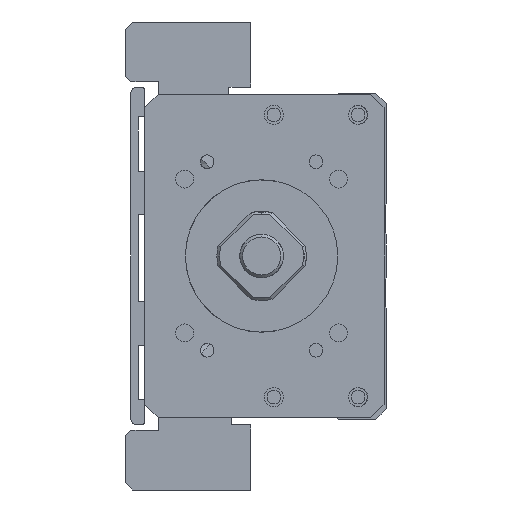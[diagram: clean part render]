
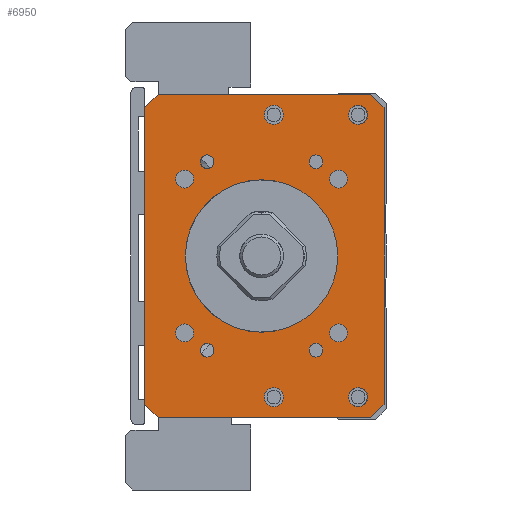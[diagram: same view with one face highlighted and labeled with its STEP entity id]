
A CAD part, left-side view. The second image highlights one B-rep face of the part: STEP entity #6950.
In plain terms, the highlighted planar face has unit normal (-1, 0, 0).
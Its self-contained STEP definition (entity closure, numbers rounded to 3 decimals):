
#188=LINE('',#20181,#1135);
#190=LINE('',#20205,#1137);
#191=LINE('',#20207,#1138);
#192=LINE('',#20209,#1139);
#193=LINE('',#20211,#1140);
#194=LINE('',#20213,#1141);
#195=LINE('',#20215,#1142);
#196=LINE('',#20217,#1143);
#1135=VECTOR('',#16807,1.);
#1137=VECTOR('',#16831,1.);
#1138=VECTOR('',#16832,1.);
#1139=VECTOR('',#16833,1.);
#1140=VECTOR('',#16834,1.);
#1141=VECTOR('',#16835,1.);
#1142=VECTOR('',#16836,1.);
#1143=VECTOR('',#16837,1.);
#6464=FACE_BOUND('',#8554,.T.);
#6465=FACE_BOUND('',#8555,.T.);
#6466=FACE_BOUND('',#8556,.T.);
#6467=FACE_BOUND('',#8557,.T.);
#6468=FACE_BOUND('',#8558,.T.);
#6469=FACE_BOUND('',#8559,.T.);
#6470=FACE_BOUND('',#8560,.T.);
#6471=FACE_BOUND('',#8561,.T.);
#6472=FACE_BOUND('',#8562,.T.);
#6473=FACE_BOUND('',#8563,.T.);
#6474=FACE_BOUND('',#8564,.T.);
#6475=FACE_BOUND('',#8565,.T.);
#6476=FACE_BOUND('',#8566,.T.);
#6477=FACE_BOUND('',#8567,.T.);
#6950=ADVANCED_FACE('',(#6464,#6465,#6466,#6467,#6468,#6469,#6470,#6471,
#6472,#6473,#6474,#6475,#6476,#6477),#7631,.F.);
#7631=PLANE('',#15675);
#8554=EDGE_LOOP('',(#9550));
#8555=EDGE_LOOP('',(#9551));
#8556=EDGE_LOOP('',(#9552));
#8557=EDGE_LOOP('',(#9553));
#8558=EDGE_LOOP('',(#9554));
#8559=EDGE_LOOP('',(#9555));
#8560=EDGE_LOOP('',(#9556));
#8561=EDGE_LOOP('',(#9557));
#8562=EDGE_LOOP('',(#9558));
#8563=EDGE_LOOP('',(#9559,#9560,#9561,#9562,#9563,#9564,#9565,#9566));
#8564=EDGE_LOOP('',(#9567));
#8565=EDGE_LOOP('',(#9568));
#8566=EDGE_LOOP('',(#9569));
#8567=EDGE_LOOP('',(#9570));
#9550=ORIENTED_EDGE('',*,*,#13720,.F.);
#9551=ORIENTED_EDGE('',*,*,#13721,.F.);
#9552=ORIENTED_EDGE('',*,*,#13722,.F.);
#9553=ORIENTED_EDGE('',*,*,#13723,.F.);
#9554=ORIENTED_EDGE('',*,*,#13724,.F.);
#9555=ORIENTED_EDGE('',*,*,#13725,.T.);
#9556=ORIENTED_EDGE('',*,*,#13726,.F.);
#9557=ORIENTED_EDGE('',*,*,#13727,.F.);
#9558=ORIENTED_EDGE('',*,*,#13728,.F.);
#9559=ORIENTED_EDGE('',*,*,#13717,.T.);
#9560=ORIENTED_EDGE('',*,*,#13729,.T.);
#9561=ORIENTED_EDGE('',*,*,#13730,.F.);
#9562=ORIENTED_EDGE('',*,*,#13731,.T.);
#9563=ORIENTED_EDGE('',*,*,#13732,.F.);
#9564=ORIENTED_EDGE('',*,*,#13733,.T.);
#9565=ORIENTED_EDGE('',*,*,#13734,.T.);
#9566=ORIENTED_EDGE('',*,*,#13735,.T.);
#9567=ORIENTED_EDGE('',*,*,#13736,.F.);
#9568=ORIENTED_EDGE('',*,*,#13737,.F.);
#9569=ORIENTED_EDGE('',*,*,#13738,.F.);
#9570=ORIENTED_EDGE('',*,*,#13697,.F.);
#12603=VERTEX_POINT('',#20104);
#12623=VERTEX_POINT('',#20180);
#12624=VERTEX_POINT('',#20182);
#12626=VERTEX_POINT('',#20188);
#12627=VERTEX_POINT('',#20190);
#12628=VERTEX_POINT('',#20192);
#12629=VERTEX_POINT('',#20194);
#12630=VERTEX_POINT('',#20196);
#12631=VERTEX_POINT('',#20198);
#12632=VERTEX_POINT('',#20200);
#12633=VERTEX_POINT('',#20202);
#12634=VERTEX_POINT('',#20204);
#12635=VERTEX_POINT('',#20206);
#12636=VERTEX_POINT('',#20208);
#12637=VERTEX_POINT('',#20210);
#12638=VERTEX_POINT('',#20212);
#12639=VERTEX_POINT('',#20214);
#12640=VERTEX_POINT('',#20216);
#12641=VERTEX_POINT('',#20219);
#12642=VERTEX_POINT('',#20221);
#12643=VERTEX_POINT('',#20223);
#13697=EDGE_CURVE('',#12603,#12603,#15241,.T.);
#13717=EDGE_CURVE('',#12624,#12623,#188,.T.);
#13720=EDGE_CURVE('',#12626,#12626,#15250,.T.);
#13721=EDGE_CURVE('',#12627,#12627,#15251,.T.);
#13722=EDGE_CURVE('',#12628,#12628,#15252,.T.);
#13723=EDGE_CURVE('',#12629,#12629,#15253,.T.);
#13724=EDGE_CURVE('',#12630,#12630,#15254,.T.);
#13725=EDGE_CURVE('',#12631,#12631,#15255,.T.);
#13726=EDGE_CURVE('',#12632,#12632,#15256,.T.);
#13727=EDGE_CURVE('',#12633,#12633,#15257,.T.);
#13728=EDGE_CURVE('',#12634,#12634,#15258,.T.);
#13729=EDGE_CURVE('',#12623,#12635,#190,.T.);
#13730=EDGE_CURVE('',#12636,#12635,#191,.T.);
#13731=EDGE_CURVE('',#12636,#12637,#192,.T.);
#13732=EDGE_CURVE('',#12638,#12637,#193,.T.);
#13733=EDGE_CURVE('',#12638,#12639,#194,.T.);
#13734=EDGE_CURVE('',#12639,#12640,#195,.T.);
#13735=EDGE_CURVE('',#12640,#12624,#196,.T.);
#13736=EDGE_CURVE('',#12641,#12641,#15259,.T.);
#13737=EDGE_CURVE('',#12642,#12642,#15260,.T.);
#13738=EDGE_CURVE('',#12643,#12643,#15261,.T.);
#15241=CIRCLE('',#15652,14.);
#15250=CIRCLE('',#15663,1.65);
#15251=CIRCLE('',#15664,1.65);
#15252=CIRCLE('',#15665,1.65);
#15253=CIRCLE('',#15666,1.65);
#15254=CIRCLE('',#15667,1.25);
#15255=CIRCLE('',#15668,1.75);
#15256=CIRCLE('',#15669,1.25);
#15257=CIRCLE('',#15670,1.75);
#15258=CIRCLE('',#15671,1.25);
#15259=CIRCLE('',#15672,1.75);
#15260=CIRCLE('',#15673,1.75);
#15261=CIRCLE('',#15674,1.25);
#15652=AXIS2_PLACEMENT_3D('',#20103,#16781,#16782);
#15663=AXIS2_PLACEMENT_3D('',#20187,#16813,#16814);
#15664=AXIS2_PLACEMENT_3D('',#20189,#16815,#16816);
#15665=AXIS2_PLACEMENT_3D('',#20191,#16817,#16818);
#15666=AXIS2_PLACEMENT_3D('',#20193,#16819,#16820);
#15667=AXIS2_PLACEMENT_3D('',#20195,#16821,#16822);
#15668=AXIS2_PLACEMENT_3D('',#20197,#16823,#16824);
#15669=AXIS2_PLACEMENT_3D('',#20199,#16825,#16826);
#15670=AXIS2_PLACEMENT_3D('',#20201,#16827,#16828);
#15671=AXIS2_PLACEMENT_3D('',#20203,#16829,#16830);
#15672=AXIS2_PLACEMENT_3D('',#20218,#16838,#16839);
#15673=AXIS2_PLACEMENT_3D('',#20220,#16840,#16841);
#15674=AXIS2_PLACEMENT_3D('',#20222,#16842,#16843);
#15675=AXIS2_PLACEMENT_3D('',#20224,#16844,#16845);
#16781=DIRECTION('',(-1.,0.,0.));
#16782=DIRECTION('',(0.,1.,0.));
#16807=DIRECTION('',(0.,0.,-1.));
#16813=DIRECTION('',(-1.,0.,0.));
#16814=DIRECTION('',(0.,0.,1.));
#16815=DIRECTION('',(-1.,0.,0.));
#16816=DIRECTION('',(0.,0.,1.));
#16817=DIRECTION('',(-1.,0.,0.));
#16818=DIRECTION('',(0.,0.,1.));
#16819=DIRECTION('',(-1.,0.,0.));
#16820=DIRECTION('',(0.,0.,1.));
#16821=DIRECTION('',(-1.,0.,0.));
#16822=DIRECTION('',(0.,1.,0.));
#16823=DIRECTION('',(1.,0.,0.));
#16824=DIRECTION('',(0.,0.,1.));
#16825=DIRECTION('',(-1.,0.,0.));
#16826=DIRECTION('',(0.,1.,0.));
#16827=DIRECTION('',(-1.,0.,0.));
#16828=DIRECTION('',(0.,0.,1.));
#16829=DIRECTION('',(-1.,0.,0.));
#16830=DIRECTION('',(0.,1.,0.));
#16831=DIRECTION('',(0.,-0.707,-0.707));
#16832=DIRECTION('',(0.,1.,0.));
#16833=DIRECTION('',(0.,-0.707,0.707));
#16834=DIRECTION('',(0.,0.,-1.));
#16835=DIRECTION('',(0.,0.707,0.707));
#16836=DIRECTION('',(0.,1.,0.));
#16837=DIRECTION('',(0.,0.707,-0.707));
#16838=DIRECTION('',(-1.,0.,0.));
#16839=DIRECTION('',(0.,0.,1.));
#16840=DIRECTION('',(-1.,0.,0.));
#16841=DIRECTION('',(0.,0.,1.));
#16842=DIRECTION('',(-1.,0.,0.));
#16843=DIRECTION('',(0.,1.,0.));
#16844=DIRECTION('',(1.,0.,0.));
#16845=DIRECTION('',(0.,1.,0.));
#20103=CARTESIAN_POINT('',(-211.,0.,-400.));
#20104=CARTESIAN_POINT('',(-211.,14.,-400.));
#20180=CARTESIAN_POINT('',(-211.,21.499,-427.25));
#20181=CARTESIAN_POINT('',(-211.,21.499,-370.25));
#20182=CARTESIAN_POINT('',(-211.,21.499,-372.75));
#20187=CARTESIAN_POINT('',(-211.,14.142,-385.858));
#20188=CARTESIAN_POINT('',(-211.,14.142,-384.208));
#20189=CARTESIAN_POINT('',(-211.,-14.142,-385.858));
#20190=CARTESIAN_POINT('',(-211.,-14.142,-384.208));
#20191=CARTESIAN_POINT('',(-211.,14.142,-414.142));
#20192=CARTESIAN_POINT('',(-211.,14.142,-412.492));
#20193=CARTESIAN_POINT('',(-211.,-14.142,-414.142));
#20194=CARTESIAN_POINT('',(-211.,-14.142,-412.492));
#20195=CARTESIAN_POINT('',(-211.,-10.,-417.321));
#20196=CARTESIAN_POINT('',(-211.,-8.75,-417.321));
#20197=CARTESIAN_POINT('',(-211.,-2.25,-425.936));
#20198=CARTESIAN_POINT('',(-211.,-2.25,-424.186));
#20199=CARTESIAN_POINT('',(-211.,10.,-382.679));
#20200=CARTESIAN_POINT('',(-211.,11.25,-382.679));
#20201=CARTESIAN_POINT('',(-211.,-2.25,-374.064));
#20202=CARTESIAN_POINT('',(-211.,-2.25,-372.314));
#20203=CARTESIAN_POINT('',(-211.,10.,-417.321));
#20204=CARTESIAN_POINT('',(-211.,11.25,-417.321));
#20205=CARTESIAN_POINT('',(-211.,18.999,-429.75));
#20206=CARTESIAN_POINT('',(-211.,18.999,-429.75));
#20207=CARTESIAN_POINT('',(-211.,-22.501,-429.75));
#20208=CARTESIAN_POINT('',(-211.,-20.001,-429.75));
#20209=CARTESIAN_POINT('',(-211.,-22.501,-427.25));
#20210=CARTESIAN_POINT('',(-211.,-22.501,-427.25));
#20211=CARTESIAN_POINT('',(-211.,-22.501,-370.25));
#20212=CARTESIAN_POINT('',(-211.,-22.501,-372.75));
#20213=CARTESIAN_POINT('',(-211.,-22.501,-372.75));
#20214=CARTESIAN_POINT('',(-211.,-20.001,-370.25));
#20215=CARTESIAN_POINT('',(-211.,-22.501,-370.25));
#20216=CARTESIAN_POINT('',(-211.,18.999,-370.25));
#20217=CARTESIAN_POINT('',(-211.,18.999,-370.25));
#20218=CARTESIAN_POINT('',(-211.,-17.75,-374.064));
#20219=CARTESIAN_POINT('',(-211.,-17.75,-372.314));
#20220=CARTESIAN_POINT('',(-211.,-17.75,-425.936));
#20221=CARTESIAN_POINT('',(-211.,-17.75,-424.186));
#20222=CARTESIAN_POINT('',(-211.,-10.,-382.679));
#20223=CARTESIAN_POINT('',(-211.,-8.75,-382.679));
#20224=CARTESIAN_POINT('',(-211.,-22.501,-370.25));
